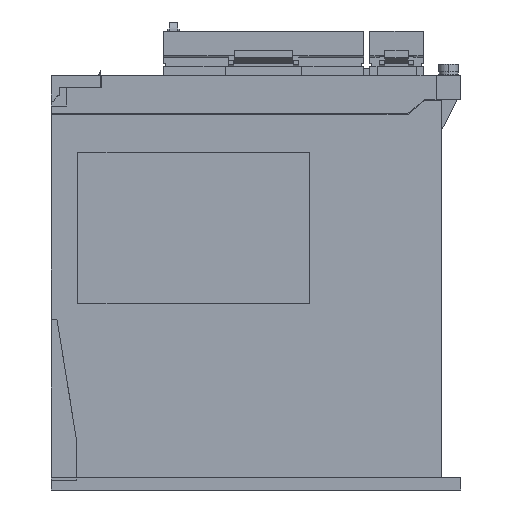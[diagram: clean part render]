
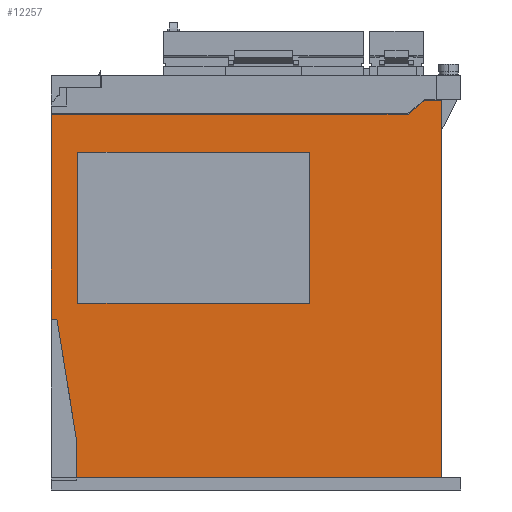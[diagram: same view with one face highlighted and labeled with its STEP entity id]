
A CAD part, left-side view. The second image highlights one B-rep face of the part: STEP entity #12257.
In plain terms, the highlighted planar face has unit normal (-1, 0, 0).
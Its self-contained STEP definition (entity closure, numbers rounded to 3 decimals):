
#8814 = VERTEX_POINT ( 'NONE', #33655 ) ;
#8816 = EDGE_CURVE ( 'NONE', #8814, #8817, #33654, .T. ) ;
#8817 = VERTEX_POINT ( 'NONE', #33650 ) ;
#9002 = VERTEX_POINT ( 'NONE', #33979 ) ;
#9067 = EDGE_CURVE ( 'NONE', #9002, #9069, #34126, .T. ) ;
#9069 = VERTEX_POINT ( 'NONE', #34122 ) ;
#9329 = VERTEX_POINT ( 'NONE', #34522 ) ;
#9389 = VERTEX_POINT ( 'NONE', #34624 ) ;
#9455 = EDGE_CURVE ( 'NONE', #9329, #9389, #34760, .T. ) ;
#12223 = ORIENTED_EDGE ( 'NONE', *, *, #12224, .T. ) ;
#12224 = EDGE_CURVE ( 'NONE', #9389, #9069, #39527, .T. ) ;
#12225 = ORIENTED_EDGE ( 'NONE', *, *, #9067, .F. ) ;
#12226 = ORIENTED_EDGE ( 'NONE', *, *, #12227, .T. ) ;
#12227 = EDGE_CURVE ( 'NONE', #9002, #12228, #39523, .T. ) ;
#12228 = VERTEX_POINT ( 'NONE', #39519 ) ;
#12229 = EDGE_CURVE ( 'NONE', #12230, #12231, #39518, .T. ) ;
#12230 = VERTEX_POINT ( 'NONE', #39514 ) ;
#12231 = VERTEX_POINT ( 'NONE', #39513 ) ;
#12233 = ORIENTED_EDGE ( 'NONE', *, *, #12234, .F. ) ;
#12234 = EDGE_CURVE ( 'NONE', #12235, #12230, #39512, .T. ) ;
#12235 = VERTEX_POINT ( 'NONE', #39508 ) ;
#12236 = ORIENTED_EDGE ( 'NONE', *, *, #12237, .F. ) ;
#12237 = EDGE_CURVE ( 'NONE', #12238, #12235, #39507, .T. ) ;
#12238 = VERTEX_POINT ( 'NONE', #39503 ) ;
#12239 = ORIENTED_EDGE ( 'NONE', *, *, #12240, .F. ) ;
#12240 = EDGE_CURVE ( 'NONE', #12231, #12238, #39502, .T. ) ;
#12241 = EDGE_LOOP ( 'NONE', ( #12242, #12243, #12304, #12307, #12309, #12223, #12225, #12226, #12288 ) ) ;
#12242 = ORIENTED_EDGE ( 'NONE', *, *, #8816, .F. ) ;
#12243 = ORIENTED_EDGE ( 'NONE', *, *, #12244, .F. ) ;
#12244 = EDGE_CURVE ( 'NONE', #12245, #8814, #39561, .T. ) ;
#12245 = VERTEX_POINT ( 'NONE', #39557 ) ;
#12257 = ADVANCED_FACE ( 'NONE', ( #39533, #39532 ), #39531, .F. ) ;
#12258 = EDGE_LOOP ( 'NONE', ( #12259, #12233, #12236, #12239 ) ) ;
#12259 = ORIENTED_EDGE ( 'NONE', *, *, #12229, .F. ) ;
#12288 = ORIENTED_EDGE ( 'NONE', *, *, #12289, .T. ) ;
#12289 = EDGE_CURVE ( 'NONE', #12228, #8817, #39606, .T. ) ;
#12304 = ORIENTED_EDGE ( 'NONE', *, *, #12305, .F. ) ;
#12305 = EDGE_CURVE ( 'NONE', #12306, #12245, #39633, .T. ) ;
#12306 = VERTEX_POINT ( 'NONE', #39629 ) ;
#12307 = ORIENTED_EDGE ( 'NONE', *, *, #12308, .F. ) ;
#12308 = EDGE_CURVE ( 'NONE', #9329, #12306, #39628, .T. ) ;
#12309 = ORIENTED_EDGE ( 'NONE', *, *, #9455, .T. ) ;
#33650 = CARTESIAN_POINT ( 'NONE',  ( -5., -155., 5.2 ) ) ;
#33651 = DIRECTION ( 'NONE',  ( 0., 0., -1. ) ) ;
#33652 = VECTOR ( 'NONE', #33651, 1000. ) ;
#33653 = CARTESIAN_POINT ( 'NONE',  ( -5., -155., 318.924 ) ) ;
#33654 = LINE ( 'NONE', #33653, #33652 ) ;
#33655 = CARTESIAN_POINT ( 'NONE',  ( -5., -155., 159.8 ) ) ;
#33979 = CARTESIAN_POINT ( 'NONE',  ( -5., -5.5, 20. ) ) ;
#34122 = CARTESIAN_POINT ( 'NONE',  ( -5., 2.577, 70. ) ) ;
#34123 = DIRECTION ( 'NONE',  ( 0., 0.159, 0.987 ) ) ;
#34124 = VECTOR ( 'NONE', #34123, 1000. ) ;
#34125 = CARTESIAN_POINT ( 'NONE',  ( -5., -5.5, 20. ) ) ;
#34126 = LINE ( 'NONE', #34125, #34124 ) ;
#34522 = CARTESIAN_POINT ( 'NONE',  ( -5., 5., 154. ) ) ;
#34624 = CARTESIAN_POINT ( 'NONE',  ( -5., 5., 70. ) ) ;
#34757 = DIRECTION ( 'NONE',  ( 0., 0., -1. ) ) ;
#34758 = VECTOR ( 'NONE', #34757, 1000. ) ;
#34759 = CARTESIAN_POINT ( 'NONE',  ( -5., 5., 318.924 ) ) ;
#34760 = LINE ( 'NONE', #34759, #34758 ) ;
#39499 = DIRECTION ( 'NONE',  ( 0., 0., 1. ) ) ;
#39500 = VECTOR ( 'NONE', #39499, 1000. ) ;
#39501 = CARTESIAN_POINT ( 'NONE',  ( -5., -101., 76.5 ) ) ;
#39502 = LINE ( 'NONE', #39501, #39500 ) ;
#39503 = CARTESIAN_POINT ( 'NONE',  ( -5., -101., 138.5 ) ) ;
#39504 = DIRECTION ( 'NONE',  ( 0., 1., 0. ) ) ;
#39505 = VECTOR ( 'NONE', #39504, 1000. ) ;
#39506 = CARTESIAN_POINT ( 'NONE',  ( -5., -6., 138.5 ) ) ;
#39507 = LINE ( 'NONE', #39506, #39505 ) ;
#39508 = CARTESIAN_POINT ( 'NONE',  ( -5., -6., 138.5 ) ) ;
#39509 = DIRECTION ( 'NONE',  ( 0., 0., -1. ) ) ;
#39510 = VECTOR ( 'NONE', #39509, 1000. ) ;
#39511 = CARTESIAN_POINT ( 'NONE',  ( -5., -6., 76.5 ) ) ;
#39512 = LINE ( 'NONE', #39511, #39510 ) ;
#39513 = CARTESIAN_POINT ( 'NONE',  ( -5., -101., 76.5 ) ) ;
#39514 = CARTESIAN_POINT ( 'NONE',  ( -5., -6., 76.5 ) ) ;
#39515 = DIRECTION ( 'NONE',  ( 0., -1., 0. ) ) ;
#39516 = VECTOR ( 'NONE', #39515, 1000. ) ;
#39517 = CARTESIAN_POINT ( 'NONE',  ( -5., -6., 76.5 ) ) ;
#39518 = LINE ( 'NONE', #39517, #39516 ) ;
#39519 = CARTESIAN_POINT ( 'NONE',  ( -5., -5.5, 5.2 ) ) ;
#39520 = DIRECTION ( 'NONE',  ( 0., 0., -1. ) ) ;
#39521 = VECTOR ( 'NONE', #39520, 1000. ) ;
#39522 = CARTESIAN_POINT ( 'NONE',  ( -5., -5.5, 20. ) ) ;
#39523 = LINE ( 'NONE', #39522, #39521 ) ;
#39524 = DIRECTION ( 'NONE',  ( 0., -1., 0. ) ) ;
#39525 = VECTOR ( 'NONE', #39524, 1000. ) ;
#39526 = CARTESIAN_POINT ( 'NONE',  ( -5., 5., 70. ) ) ;
#39527 = LINE ( 'NONE', #39526, #39525 ) ;
#39528 = DIRECTION ( 'NONE',  ( 1., 0., 0. ) ) ;
#39529 = CARTESIAN_POINT ( 'NONE',  ( -5., 5., 318.924 ) ) ;
#39530 = AXIS2_PLACEMENT_3D ( 'NONE', #39529, #39528, #39592 ) ;
#39531 = PLANE ( 'NONE',  #39530 ) ;
#39532 = FACE_OUTER_BOUND ( 'NONE', #12241, .T. ) ;
#39533 = FACE_BOUND ( 'NONE', #12258, .T. ) ;
#39557 = CARTESIAN_POINT ( 'NONE',  ( -5., -148., 159.8 ) ) ;
#39558 = DIRECTION ( 'NONE',  ( 0., -1., 0. ) ) ;
#39559 = VECTOR ( 'NONE', #39558, 1000. ) ;
#39560 = CARTESIAN_POINT ( 'NONE',  ( -5., -153., 159.8 ) ) ;
#39561 = LINE ( 'NONE', #39560, #39559 ) ;
#39592 = DIRECTION ( 'NONE',  ( 0., 1., 0. ) ) ;
#39603 = DIRECTION ( 'NONE',  ( 0., -1., 0. ) ) ;
#39604 = VECTOR ( 'NONE', #39603, 1000. ) ;
#39605 = CARTESIAN_POINT ( 'NONE',  ( -5., -5.5, 5.2 ) ) ;
#39606 = LINE ( 'NONE', #39605, #39604 ) ;
#39628 = LINE ( 'NONE', #39689, #39688 ) ;
#39629 = CARTESIAN_POINT ( 'NONE',  ( -5., -141.328, 154. ) ) ;
#39630 = DIRECTION ( 'NONE',  ( 0., -0.755, 0.656 ) ) ;
#39631 = VECTOR ( 'NONE', #39630, 1000. ) ;
#39632 = CARTESIAN_POINT ( 'NONE',  ( -5., -141.328, 154. ) ) ;
#39633 = LINE ( 'NONE', #39632, #39631 ) ;
#39687 = DIRECTION ( 'NONE',  ( 0., -1., 0. ) ) ;
#39688 = VECTOR ( 'NONE', #39687, 1000. ) ;
#39689 = CARTESIAN_POINT ( 'NONE',  ( -5., 13.365, 154. ) ) ;
